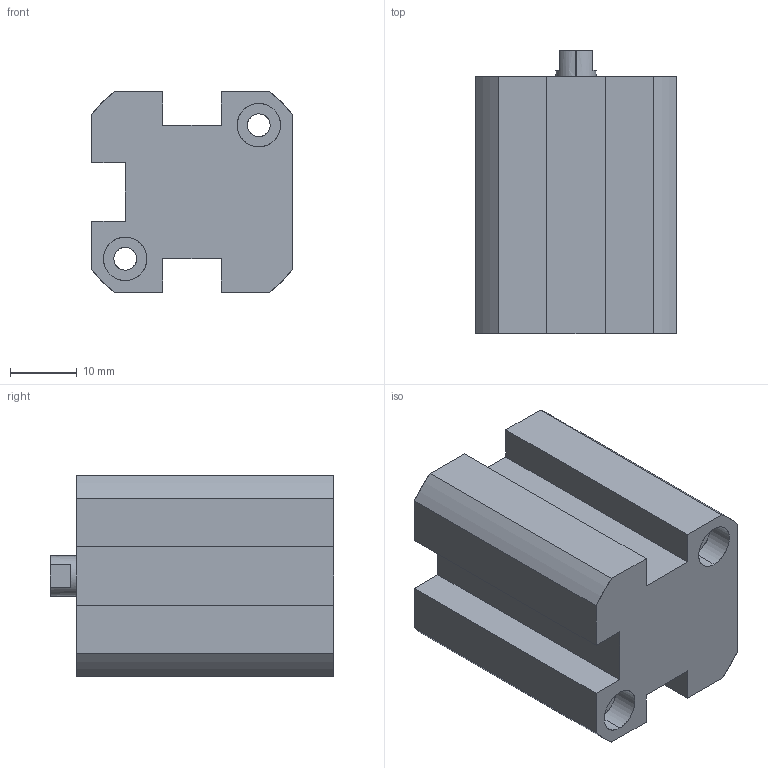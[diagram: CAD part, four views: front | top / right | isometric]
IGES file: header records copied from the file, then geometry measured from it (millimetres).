
Start section: SolidWorks IGES file using analytic representation for surfaces
Global section: file name: C:\Users\Toshiba\Desktop\XG#2-16-10.IGS; native system: SolidWorks 2014; preprocessor: SolidWorks 2014; author: Toshiba; date: 160524.094602; units: millimetre
Bounding box: 30 x 42.5 x 30 mm (x, y, z)
Surface area: 8556.6 mm2 (no closed solid volume)
Topology: 0 solids, 0 shells, 77 faces, 1171 edges, 1165 vertices
Faces by surface type: revolution 45, bspline 32
